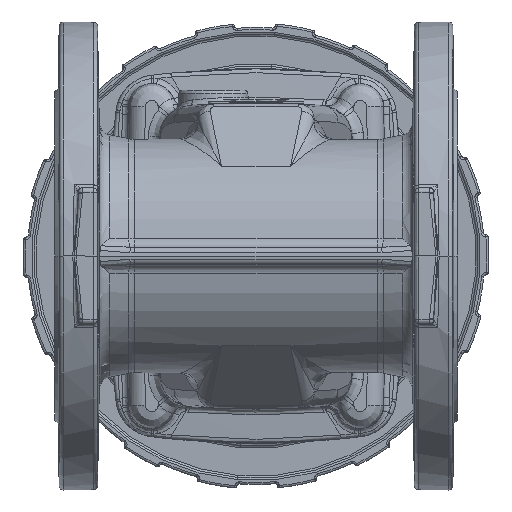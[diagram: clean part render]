
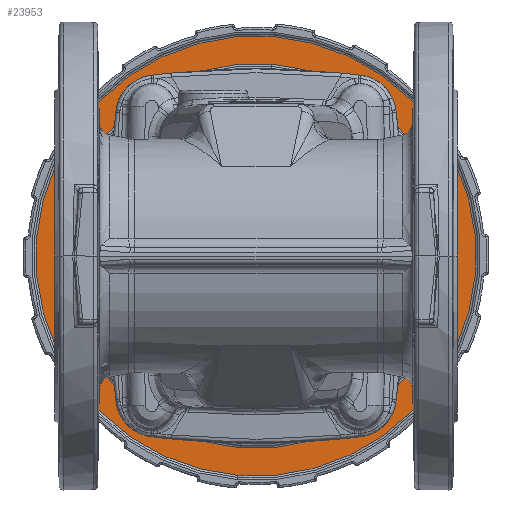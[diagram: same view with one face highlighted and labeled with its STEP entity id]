
A CAD part, front view. The second image highlights one B-rep face of the part: STEP entity #23953.
In plain terms, the highlighted planar face has unit normal (0, -1, 0).
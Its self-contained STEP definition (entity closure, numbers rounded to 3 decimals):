
#112 = DIRECTION ( 'NONE',  ( 0., 0., 1. ) ) ;
#601 = CARTESIAN_POINT ( 'NONE',  ( 0., 24.941, -104. ) ) ;
#761 = EDGE_CURVE ( 'NONE', #77960, #44424, #23521, .T. ) ;
#3978 = PLANE ( 'NONE',  #59703 ) ;
#5741 = CARTESIAN_POINT ( 'NONE',  ( 0., 24.941, 104. ) ) ;
#9341 = DIRECTION ( 'NONE',  ( 0., 1., 0. ) ) ;
#10070 = ORIENTED_EDGE ( 'NONE', *, *, #761, .T. ) ;
#10712 = DIRECTION ( 'NONE',  ( 0., 0., 1. ) ) ;
#11909 = AXIS2_PLACEMENT_3D ( 'NONE', #16304, #9341, #112 ) ;
#13057 = CARTESIAN_POINT ( 'NONE',  ( 0., 24.941, 0. ) ) ;
#16304 = CARTESIAN_POINT ( 'NONE',  ( 0., 24.941, 0. ) ) ;
#16821 = ORIENTED_EDGE ( 'NONE', *, *, #51897, .T. ) ;
#20016 = VERTEX_POINT ( 'NONE', #72220 ) ;
#21653 = ORIENTED_EDGE ( 'NONE', *, *, #57744, .T. ) ;
#21891 = FACE_OUTER_BOUND ( 'NONE', #95632, .T. ) ;
#23521 = CIRCLE ( 'NONE', #91815, 104. ) ;
#23953 = ADVANCED_FACE ( 'NONE', ( #47338, #21891 ), #3978, .F. ) ;
#35039 = EDGE_LOOP ( 'NONE', ( #66179, #21653 ) ) ;
#38260 = DIRECTION ( 'NONE',  ( 0., 0., 1. ) ) ;
#40538 = DIRECTION ( 'NONE',  ( 0., 1., 0. ) ) ;
#41407 = CIRCLE ( 'NONE', #98735, 104. ) ;
#42880 = CARTESIAN_POINT ( 'NONE',  ( 0., 24.941, 91. ) ) ;
#44424 = VERTEX_POINT ( 'NONE', #601 ) ;
#44944 = VERTEX_POINT ( 'NONE', #42880 ) ;
#47338 = FACE_BOUND ( 'NONE', #35039, .T. ) ;
#51897 = EDGE_CURVE ( 'NONE', #44424, #77960, #41407, .T. ) ;
#54718 = CIRCLE ( 'NONE', #74799, 91. ) ;
#56605 = DIRECTION ( 'NONE',  ( 0., 1., 0. ) ) ;
#56766 = CARTESIAN_POINT ( 'NONE',  ( 0., 24.941, 0. ) ) ;
#57744 = EDGE_CURVE ( 'NONE', #20016, #44944, #95087, .T. ) ;
#59703 = AXIS2_PLACEMENT_3D ( 'NONE', #64756, #56605, #75113 ) ;
#64756 = CARTESIAN_POINT ( 'NONE',  ( 90., 24.941, 0. ) ) ;
#66179 = ORIENTED_EDGE ( 'NONE', *, *, #77101, .T. ) ;
#72220 = CARTESIAN_POINT ( 'NONE',  ( 0., 24.941, -91. ) ) ;
#74799 = AXIS2_PLACEMENT_3D ( 'NONE', #56766, #40538, #38260 ) ;
#75113 = DIRECTION ( 'NONE',  ( 0., 0., 1. ) ) ;
#77101 = EDGE_CURVE ( 'NONE', #44944, #20016, #54718, .T. ) ;
#77960 = VERTEX_POINT ( 'NONE', #5741 ) ;
#83647 = DIRECTION ( 'NONE',  ( 0., 0., 1. ) ) ;
#91815 = AXIS2_PLACEMENT_3D ( 'NONE', #108457, #109590, #10712 ) ;
#95087 = CIRCLE ( 'NONE', #11909, 91. ) ;
#95632 = EDGE_LOOP ( 'NONE', ( #10070, #16821 ) ) ;
#98735 = AXIS2_PLACEMENT_3D ( 'NONE', #13057, #101000, #83647 ) ;
#101000 = DIRECTION ( 'NONE',  ( 0., -1., 0. ) ) ;
#108457 = CARTESIAN_POINT ( 'NONE',  ( 0., 24.941, 0. ) ) ;
#109590 = DIRECTION ( 'NONE',  ( 0., -1., 0. ) ) ;
